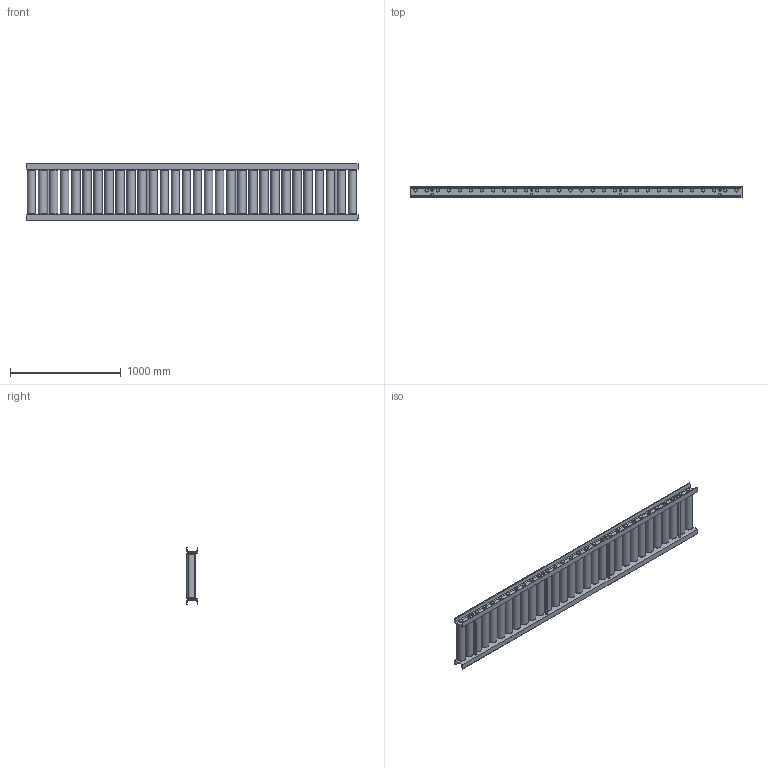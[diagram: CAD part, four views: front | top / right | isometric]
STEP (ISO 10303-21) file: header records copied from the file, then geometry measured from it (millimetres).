
FILE_DESCRIPTION (( 'STEP AP203' ), '1' );
FILE_NAME ('HRC-7610.step', '2024-02-20T08:15:02', ( '' ), ( '' ), 'SwSTEP 2.0', 'SolidWorks 2023', '' );
FILE_SCHEMA (( 'CONFIG_CONTROL_DESIGN' ));
Length unit declared in the file: millimetre
Products named in the file (1): HRC-7610
Bounding box: 3000 x 105.13 x 515 mm (x, y, z)
Volume: 63496844.7 mm3; surface area: 8141096.1 mm2
Topology: 102 solids, 102 shells, 1287 faces, 2805 edges, 1798 vertices
Faces by surface type: cylinder 557, plane 514, torus 120, cone 96
Entity records: 36700 total; most frequent: CARTESIAN_POINT 7235, DIRECTION 6635, ORIENTED_EDGE 5610, EDGE_CURVE 2805, AXIS2_PLACEMENT_3D 2798, VERTEX_POINT 1798, EDGE_LOOP 1591, CIRCLE 1510
